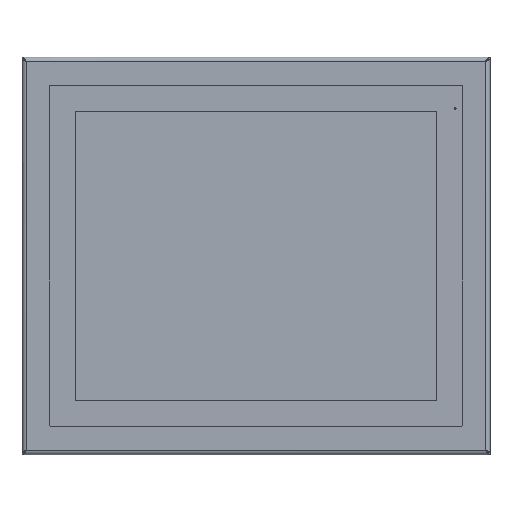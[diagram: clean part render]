
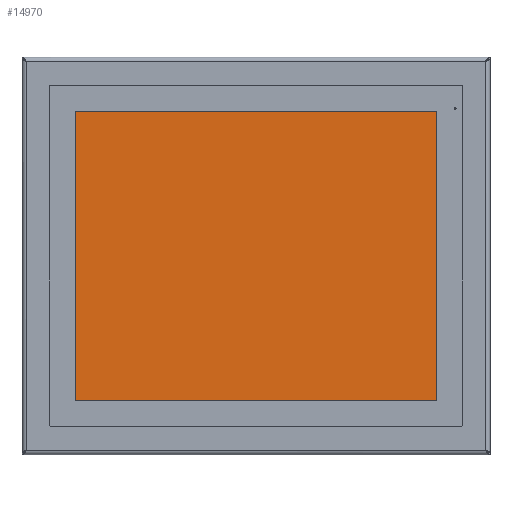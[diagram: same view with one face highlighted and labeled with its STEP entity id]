
A CAD part, top view. The second image highlights one B-rep face of the part: STEP entity #14970.
In plain terms, the highlighted planar face has unit normal (0, 0, 1).
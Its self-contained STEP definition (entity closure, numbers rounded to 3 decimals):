
#14187=DIRECTION('',(0.,1.,0.));
#14188=VECTOR('',#14187,271.34);
#14189=CARTESIAN_POINT('',(-169.46,-135.67,-1.1));
#14190=LINE('',#14189,#14188);
#14191=DIRECTION('',(-1.,0.,0.));
#14192=VECTOR('',#14191,338.92);
#14193=CARTESIAN_POINT('',(169.46,135.67,-1.1));
#14194=LINE('',#14193,#14192);
#14203=DIRECTION('',(0.,1.,0.));
#14204=VECTOR('',#14203,271.34);
#14205=CARTESIAN_POINT('',(169.46,-135.67,-1.1));
#14206=LINE('',#14205,#14204);
#14215=DIRECTION('',(1.,0.,0.));
#14216=VECTOR('',#14215,338.92);
#14217=CARTESIAN_POINT('',(-169.46,-135.67,-1.1));
#14218=LINE('',#14217,#14216);
#14349=CARTESIAN_POINT('',(-169.46,-135.67,-1.1));
#14350=CARTESIAN_POINT('',(-169.46,135.67,-1.1));
#14351=VERTEX_POINT('',#14349);
#14352=VERTEX_POINT('',#14350);
#14353=CARTESIAN_POINT('',(169.46,-135.67,-1.1));
#14354=VERTEX_POINT('',#14353);
#14355=CARTESIAN_POINT('',(169.46,135.67,-1.1));
#14356=VERTEX_POINT('',#14355);
#14956=CARTESIAN_POINT('',(0.,0.,-1.1));
#14957=DIRECTION('',(0.,0.,1.));
#14958=DIRECTION('',(0.,1.,0.));
#14959=AXIS2_PLACEMENT_3D('',#14956,#14957,#14958);
#14960=PLANE('',#14959);
#14961=ORIENTED_EDGE('',*,*,#14946,.T.);
#14963=ORIENTED_EDGE('',*,*,#14962,.F.);
#14965=ORIENTED_EDGE('',*,*,#14964,.F.);
#14967=ORIENTED_EDGE('',*,*,#14966,.F.);
#14968=EDGE_LOOP('',(#14961,#14963,#14965,#14967));
#14969=FACE_OUTER_BOUND('',#14968,.F.);
#14970=ADVANCED_FACE('',(#14969),#14960,.T.);
#14946=EDGE_CURVE('',#14351,#14352,#14190,.T.);
#14962=EDGE_CURVE('',#14356,#14352,#14194,.T.);
#14964=EDGE_CURVE('',#14354,#14356,#14206,.T.);
#14966=EDGE_CURVE('',#14351,#14354,#14218,.T.);
